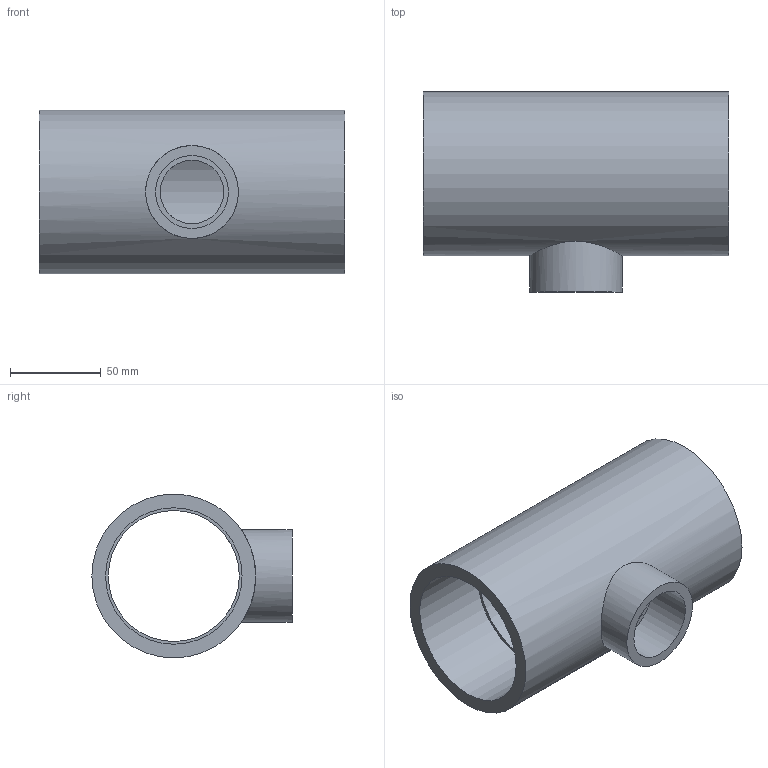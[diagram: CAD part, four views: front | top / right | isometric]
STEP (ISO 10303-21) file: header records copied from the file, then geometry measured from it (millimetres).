
FILE_DESCRIPTION(/* description */ ('PVC ti a 90° ridotto incollaggio metrico'),/* implementation_level */ '2;1');
FILE_NAME(/* name */ 'C:\Users\POLYPIPE\Desktop\DATASET INVENTOR\LIBRERIA EFFAST\RACCORDI 3DxWEB\RDR\3D_RDRTRD\3D_RDRTRD075E.stp',/* time_stamp */ '2018-01-19T15:48:06+01:00',/* author */ ('POLYPIPE'),/* organization */ ('Polypipe Italia s.r.l.'),/* preprocessor_version */ 'ST-DEVELOPER v16.1',/* originating_system */ 'Autodesk Inventor 2016',/* authorisation */ '');
FILE_SCHEMA (('CONFIG_CONTROL_DESIGN'));
Length unit declared in the file: millimetre
Products named in the file (1): 3D_RDRTRD
Bounding box: 168 x 110 x 90 mm (x, y, z)
Volume: 361738.5 mm3; surface area: 96560.1 mm2
Topology: 1 solids, 1 shells, 13 faces, 23 edges, 16 vertices
Faces by surface type: cylinder 7, plane 6
Full cylindrical faces by diameter (mm): 35 x1, 40 x1, 51 x1, 72 x1, 75 x2, 90 x1
Entity records: 430 total; most frequent: CARTESIAN_POINT 172, DIRECTION 52, EDGE_LOOP 28, ORIENTED_EDGE 28, AXIS2_PLACEMENT_3D 26, FACE_BOUND 15, VERTEX_POINT 14, EDGE_CURVE 14
